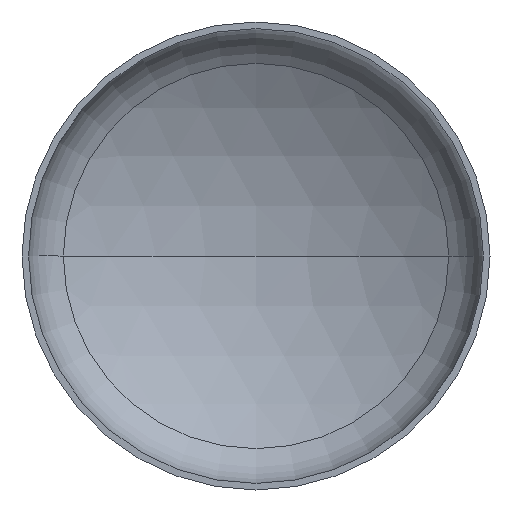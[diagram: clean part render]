
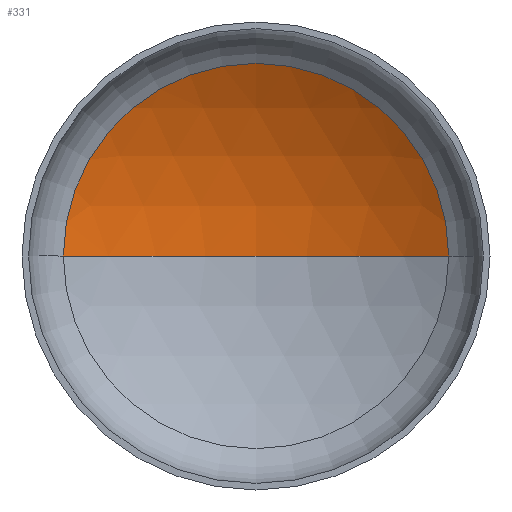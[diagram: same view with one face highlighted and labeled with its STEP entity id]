
A CAD part, front view. The second image highlights one B-rep face of the part: STEP entity #331.
In plain terms, the highlighted spherical face has radius 1360 mm.
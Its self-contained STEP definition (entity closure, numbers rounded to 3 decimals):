
#2 = CARTESIAN_POINT ( 'NONE',  ( 0., -868.209, 0. ) ) ;
#11 = AXIS2_PLACEMENT_3D ( 'NONE', #149, #151, #148 ) ;
#19 = AXIS2_PLACEMENT_3D ( 'NONE', #2, #236, #162 ) ;
#20 = EDGE_LOOP ( 'NONE', ( #81, #64, #31 ) ) ;
#24 = AXIS2_PLACEMENT_3D ( 'NONE', #306, #74, #169 ) ;
#28 = AXIS2_PLACEMENT_3D ( 'NONE', #234, #70, #389 ) ;
#31 = ORIENTED_EDGE ( 'NONE', *, *, #365, .T. ) ;
#64 = ORIENTED_EDGE ( 'NONE', *, *, #350, .T. ) ;
#70 = DIRECTION ( 'NONE',  ( 0., 0., -1. ) ) ;
#71 = FACE_OUTER_BOUND ( 'NONE', #20, .T. ) ;
#74 = DIRECTION ( 'NONE',  ( 0., 0., -1. ) ) ;
#81 = ORIENTED_EDGE ( 'NONE', *, *, #353, .F. ) ;
#83 = VERTEX_POINT ( 'NONE', #237 ) ;
#97 = VERTEX_POINT ( 'NONE', #226 ) ;
#148 = DIRECTION ( 'NONE',  ( 1., 0., 0. ) ) ;
#149 = CARTESIAN_POINT ( 'NONE',  ( 0., 297.94, 0. ) ) ;
#151 = DIRECTION ( 'NONE',  ( 0., -1., 0. ) ) ;
#162 = DIRECTION ( 'NONE',  ( 1., 0., 0. ) ) ;
#169 = DIRECTION ( 'NONE',  ( -1., 0., 0. ) ) ;
#174 = CARTESIAN_POINT ( 'NONE',  ( 0., 491.791, 0. ) ) ;
#186 = CIRCLE ( 'NONE', #24, 1360. ) ;
#226 = CARTESIAN_POINT ( 'NONE',  ( -699.782, 297.94, 0. ) ) ;
#234 = CARTESIAN_POINT ( 'NONE',  ( 0., -868.209, 0. ) ) ;
#236 = DIRECTION ( 'NONE',  ( 0., 0., 1. ) ) ;
#237 = CARTESIAN_POINT ( 'NONE',  ( 699.782, 297.94, 0. ) ) ;
#249 = CIRCLE ( 'NONE', #19, 1360. ) ;
#305 = VERTEX_POINT ( 'NONE', #174 ) ;
#306 = CARTESIAN_POINT ( 'NONE',  ( 0., -868.209, 0. ) ) ;
#331 = ADVANCED_FACE ( 'NONE', ( #71 ), #380, .F. ) ;
#350 = EDGE_CURVE ( 'NONE', #305, #83, #186, .T. ) ;
#353 = EDGE_CURVE ( 'NONE', #305, #97, #249, .T. ) ;
#365 = EDGE_CURVE ( 'NONE', #83, #97, #411, .T. ) ;
#380 = SPHERICAL_SURFACE ( 'NONE', #28, 1360. ) ;
#389 = DIRECTION ( 'NONE',  ( -1., 0., 0. ) ) ;
#411 = CIRCLE ( 'NONE', #11, 699.782 ) ;
